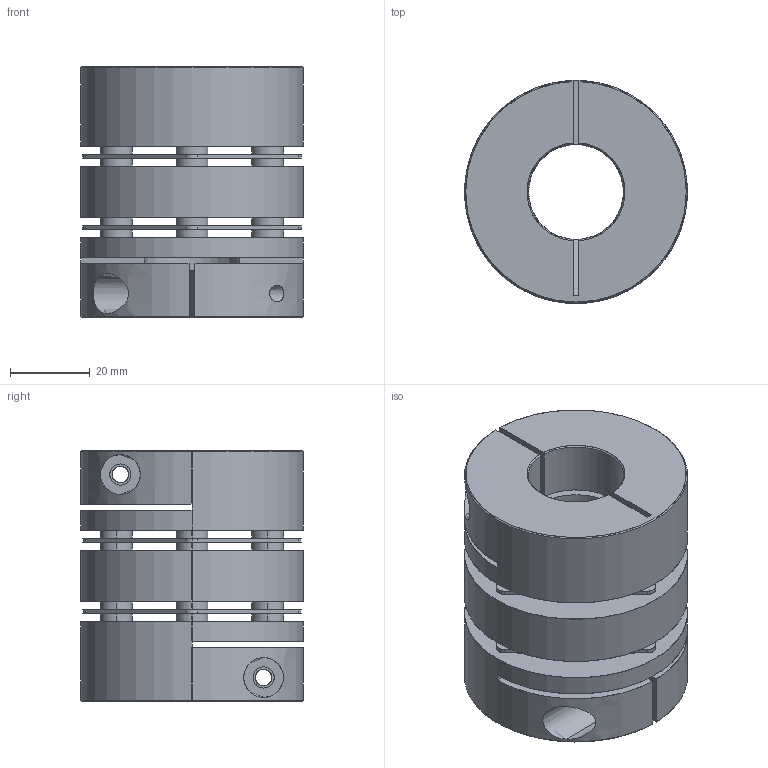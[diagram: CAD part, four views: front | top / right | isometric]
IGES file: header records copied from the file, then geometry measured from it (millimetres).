
Start section: SolidWorks IGES file using analytic representation for surfaces
Bounding box: 56 x 56 x 63 mm (x, y, z)
Surface area: 35665 mm2 (no closed solid volume)
Topology: 0 solids, 0 shells, 130 faces, 3056 edges, 3056 vertices
Faces by surface type: revolution 90, bspline 40
